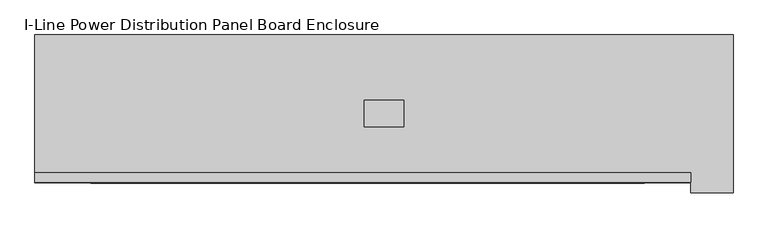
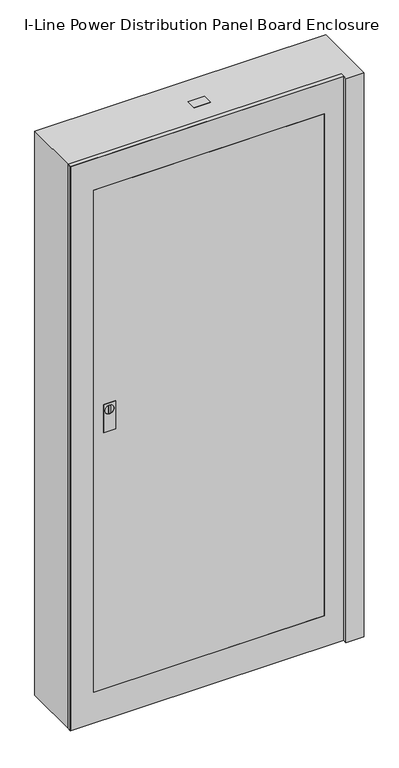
"""IFC4 building model written with IfcOpenShell, lengths in millimetres: proxy geometry, I-Line_PDP_Config6 : I-Line Power Distribution Panel Board Enclosure."""

from ifc_helpers import new_model, si_unit, point, frame, frame_2d, origin, origin_with_axes, place, context, project, spatial, polyline, circle_curve, trimmed, segment, composite_curve, outline, extrude, source, transform, mapped, element, save


def i_line_power_distribution_panel_board_enclosure_55b0a53f(model_context):
    return source(origin(), model_context, "Body", "SweptSolid", [
        extrude(outline(polyline([(29.9355959, 20.4466569), (29.9355959, -19.5533431), (-30.0644041, -19.5533431), (-30.0644041, 20.4466569), (29.9355959, 20.4466569)])), frame((0.0, 0.0, 2182.0), z_axis=(0.0, 0.0, 1.0), x_axis=(1.0, 0.0, 0.0)), (0.0, 0.0, 1.0), 2.0),
        extrude(outline(polyline([(1220.9933328, -368.620244), (1220.9933328, -412.6115289), (1112.0, -412.6115289), (1112.0, -368.620244), (1220.9933328, -368.620244)]), holes=[composite_curve([segment(trimmed(circle_curve(frame_2d((1194.7298791, -390.6240938)), 16.4146586), [point((1194.7298791, -407.0387523))], [point((1194.7298791, -374.2094352))], True, "CARTESIAN"), True, "CONTINUOUS"), segment(trimmed(circle_curve(frame_2d((1194.7298791, -390.6240938)), 16.4146586), [point((1194.7298791, -374.2094352))], [point((1194.7298791, -407.0387523))], True, "CARTESIAN"), True, "CONTINUOUS")], self_intersect=False)]), frame((0.0, -106.0, 0.0), z_axis=(0.0, 1.0, 0.0), x_axis=(0.0, 0.0, 1.0)), (0.0, 0.0, 1.0), 1.0),
        extrude(outline(composite_curve([segment(polyline([(1209.9614329, -394.5636118), (1179.4669633, -394.5636118)]), True, "CONTINUOUS"), segment(trimmed(circle_curve(frame_2d((1213.1619767, -390.6240938)), 33.9245299), [point((1179.4669633, -394.5636118))], [point((1179.4669633, -386.6845757))], False, "CARTESIAN"), True, "CONTINUOUS"), segment(polyline([(1179.4669633, -386.6845757), (1209.9614329, -386.6845757)]), True, "CONTINUOUS"), segment(trimmed(circle_curve(frame_2d((1194.1423953, -390.6240938)), 16.3022009), [point((1209.9614329, -386.6845757))], [point((1209.9614329, -394.5636118))], False, "CARTESIAN"), True, "CONTINUOUS")], self_intersect=False)), frame((0.0, -106.0, 0.0), z_axis=(0.0, 1.0, 0.0), x_axis=(0.0, 0.0, 1.0)), (0.0, 0.0, 1.0), 1.0),
        extrude(outline(polyline([(2184.0, 468.5), (2184.0, -533.5), (0.0, -533.5), (0.0, 468.5), (2184.0, 468.5)]), holes=[polyline([(2064.0, 397.5), (120.0, 397.5), (120.0, -448.5), (2064.0, -448.5), (2064.0, 397.5)])]), frame((0.0, -105.0, 0.0), z_axis=(0.0, 1.0, 0.0), x_axis=(0.0, 0.0, 1.0)), (0.0, 0.0, 1.0), 15.0),
        extrude(outline(polyline([(533.5, 120.5), (533.5, -95.5), (533.5, -120.5), (468.5, -120.5), (468.5, -105.5), (-533.5, -105.5), (-533.5, 120.5), (533.5, 120.5)])), origin_with_axes(), (0.0, 0.0, 1.0), 2184.0),
        extrude(outline(polyline([(397.5, -106.0), (-448.5, -106.0), (-448.5, -105.0), (397.5, -105.0), (397.5, -106.0)])), frame((0.0, 0.0, 120.0), z_axis=(0.0, 0.0, 1.0), x_axis=(1.0, 0.0, 0.0)), (0.0, 0.0, 1.0), 1944.0),
    ])


if __name__ == "__main__":
    model = new_model("IFC4")
    model_context = context("Model", 3, world=origin())
    ifc_project = project(units=[si_unit("LENGTHUNIT", "METRE", prefix="MILLI")], contexts=[model_context])
    site = spatial("IfcSite", under=ifc_project)
    building = spatial("IfcBuilding", under=site)
    placement = place(None, origin())
    i_line_power_distribution_panel_board_enclosure_shape = i_line_power_distribution_panel_board_enclosure_55b0a53f(model_context)
    element("IfcBuildingElementProxy", 1, Name="I-Line_PDP_Config6 : I-Line Power Distribution Panel Board Enclosure", ObjectType="I-Line_PDP_Config6 : I-Line Power Distribution Panel Board Enclosure", at=placement, inside=building, context=model_context, shape_type="MappedRepresentation", body=[
        mapped(i_line_power_distribution_panel_board_enclosure_shape, transform((0.0, 0.0, 0.0), x_axis=(1.0, 0.0, 0.0), y_axis=(0.0, 1.0, 0.0), z_axis=(0.0, 0.0, 1.0))),
    ])
    save(model, "model.ifc")
